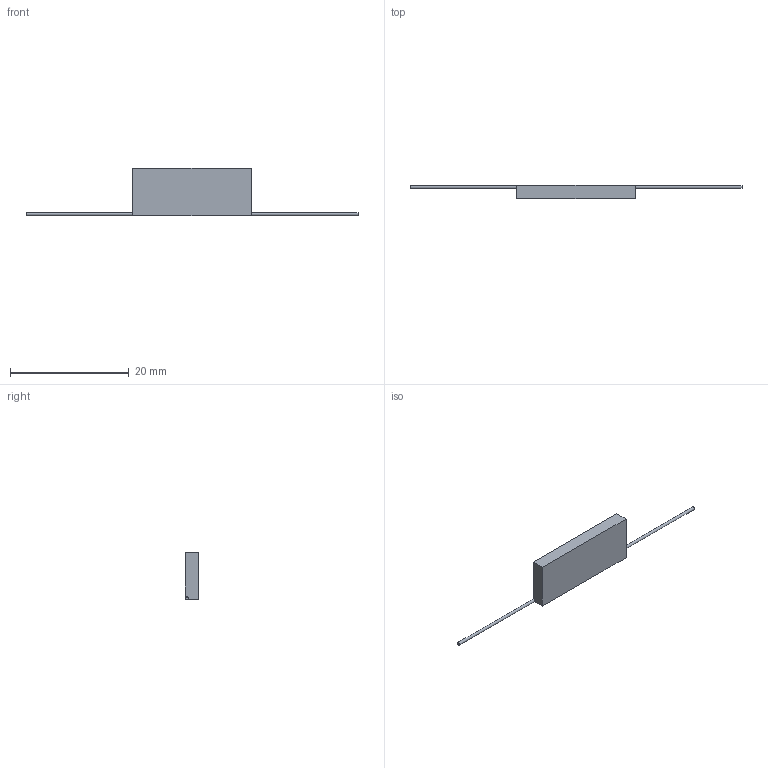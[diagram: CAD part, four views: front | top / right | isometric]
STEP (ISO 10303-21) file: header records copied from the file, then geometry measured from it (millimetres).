
FILE_DESCRIPTION(('STEP AP203'), '1');
FILE_NAME('R1-35-1-2', '', ('UNSPECIFIED'), ('UNSPECIFIED'), 'ASCON STEP Converter 1.6', 'ASCON Math Kernel', '');
FILE_SCHEMA(('CONFIG_CONTROL_DESIGN'));
Length unit declared in the file: millimetre
Bounding box: 56 x 2.2 x 8 mm (x, y, z)
Volume: 359.1 mm3; surface area: 499.7 mm2
Topology: 1 solids, 1 shells, 12 faces, 24 edges, 14 vertices
Faces by surface type: plane 10, cylinder 2
Full cylindrical faces by diameter (mm): 0.5 x2
Entity records: 436 total; most frequent: DIRECTION 54, CARTESIAN_POINT 49, ORIENTED_EDGE 44, EDGE_CURVE 22, AXIS2_PLACEMENT_3D 19, LINE 16, VECTOR 16, EDGE_LOOP 14
